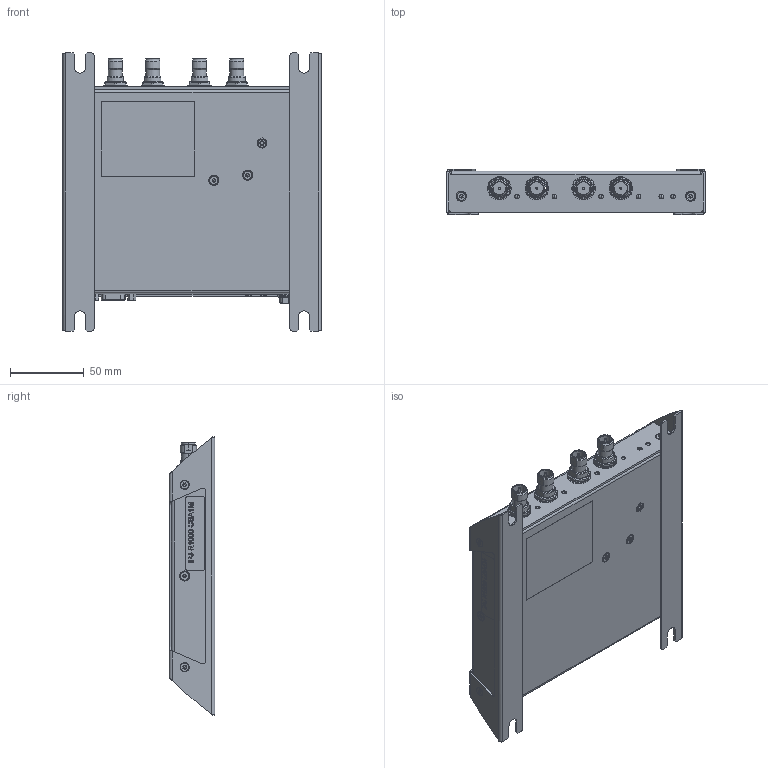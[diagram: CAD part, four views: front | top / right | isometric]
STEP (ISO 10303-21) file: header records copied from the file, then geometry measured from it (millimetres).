
FILE_DESCRIPTION (( 'STEP AP203' ), '1' );
FILE_NAME ('Speedway 4 Port.STEP', '2015-04-03T15:20:22', ( '' ), ( '' ), 'SwSTEP 2.0', 'SolidWorks 2014', '' );
FILE_SCHEMA (( 'CONFIG_CONTROL_DESIGN' ));
Products named in the file (1): Speedway 4 Port
Bounding box: 175.4 x 30.9 x 189 mm (x, y, z)
Surface area: 172231.8 mm2 (no closed solid volume)
Topology: 0 solids, 273 shells, 1553 faces, 8288 edges, 6892 vertices
Faces by surface type: plane 895, cylinder 421, cone 149, bspline 72, sphere 15, torus 1
Entity records: 98209 total; most frequent: CARTESIAN_POINT 37412, DIRECTION 10926, ORIENTED_EDGE 10673, EDGE_CURVE 8257, VERTEX_POINT 6880, VECTOR 5444, LINE 5444, AXIS2_PLACEMENT_3D 2741
